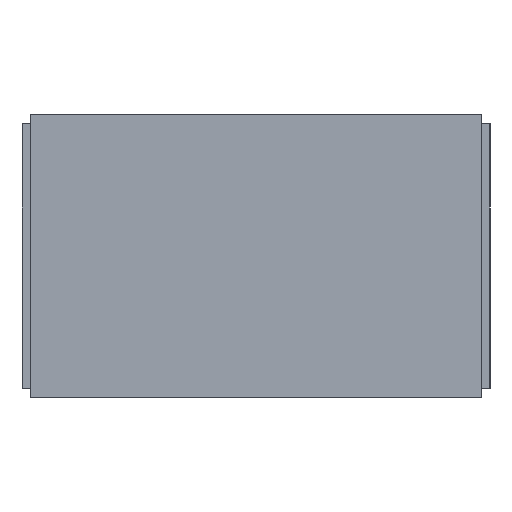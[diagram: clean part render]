
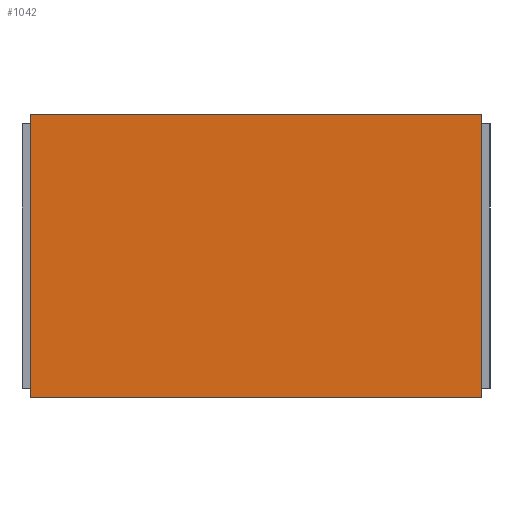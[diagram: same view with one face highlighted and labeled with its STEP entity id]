
A CAD part, left-side view. The second image highlights one B-rep face of the part: STEP entity #1042.
In plain terms, the highlighted planar face has unit normal (-1, 0, 0).
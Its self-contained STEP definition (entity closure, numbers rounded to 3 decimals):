
#957=CARTESIAN_POINT('',(-1.054,-0.648,0.813));
#956=VERTEX_POINT('',#957);
#975=CARTESIAN_POINT('',(-1.054,0.648,0.813));
#974=VERTEX_POINT('',#975);
#983=EDGE_CURVE('',#956,#974,#988,.T.);
#988=LINE('',#957,#990);
#990=VECTOR('',#991,1.295);
#991=DIRECTION('',(0.0,1.0,0.0));
#1042=ADVANCED_FACE('',(#1048),#1043,.T.);
#1043=PLANE('',#1044);
#1044=AXIS2_PLACEMENT_3D('',#1045,#1046,#1047);
#1045=CARTESIAN_POINT('',(-1.054,0.648,0.0));
#1046=DIRECTION('',(-1.0,0.0,0.0));
#1047=DIRECTION('',(0.,0.,1.));
#1048=FACE_OUTER_BOUND('',#1049,.T.);
#1049=EDGE_LOOP('',(#1050,#1060,#1070,#1080));
#1053=CARTESIAN_POINT('',(-1.054,-0.648,0.0));
#1052=VERTEX_POINT('',#1053);
#1055=CARTESIAN_POINT('',(-1.054,0.648,0.0));
#1054=VERTEX_POINT('',#1055);
#1051=EDGE_CURVE('',#1052,#1054,#1056,.T.);
#1056=LINE('',#1053,#1058);
#1058=VECTOR('',#1059,1.295);
#1059=DIRECTION('',(0.0,1.0,0.0));
#1050=ORIENTED_EDGE('',*,*,#1051,.F.);
#1061=EDGE_CURVE('',#956,#1052,#1066,.T.);
#1066=LINE('',#957,#1068);
#1068=VECTOR('',#1069,0.813);
#1069=DIRECTION('',(0.0,0.0,-1.0));
#1060=ORIENTED_EDGE('',*,*,#1061,.F.);
#1070=ORIENTED_EDGE('',*,*,#983,.T.);
#1081=EDGE_CURVE('',#1054,#974,#1086,.T.);
#1086=LINE('',#1055,#1088);
#1088=VECTOR('',#1089,0.813);
#1089=DIRECTION('',(0.0,0.0,1.0));
#1080=ORIENTED_EDGE('',*,*,#1081,.F.);
